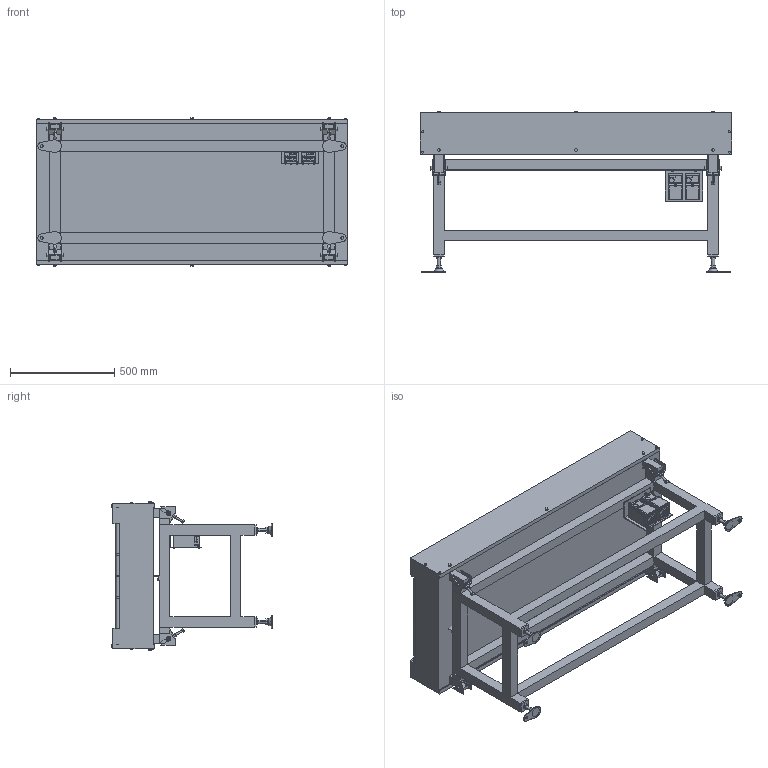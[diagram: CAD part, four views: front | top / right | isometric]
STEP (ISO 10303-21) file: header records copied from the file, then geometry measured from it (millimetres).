
FILE_DESCRIPTION( (''), '2;1');
FILE_NAME ('GA20H-304×2-500-150-L-IVH-18.stp','2024-05-20T09:45:16',(''),(''),'spGate 20.6.2 (****-****-****-****)','','');
FILE_SCHEMA (('AUTOMOTIVE_DESIGN'));
Length unit declared in the file: millimetre
Products named in the file (66): NewModel; TEMP_X_T-prt0; TEMP_X_T-prt1; TEMP_X_T-prt2; TEMP_X_T-prt3; TEMP_X_T-prt4; TEMP_X_T-prt5; TEMP_X_T-prt6; TEMP_X_T-prt7; TEMP_X_T-prt8; TEMP_X_T-prt9; TEMP_X_T-prt10; TEMP_X_T-prt11; TEMP_X_T-prt12; TEMP_X_T-prt13; TEMP_X_T-prt14; TEMP_X_T-prt15; TEMP_X_T-prt16; TEMP_X_T-prt17; TEMP_X_T-prt18; TEMP_X_T-prt19; TEMP_X_T-prt20; TEMP_X_T-prt21; TEMP_X_T-prt22; TEMP_X_T-prt23; TEMP_X_T-prt24; TEMP_X_T-prt25; TEMP_X_T-prt26; TEMP_X_T-prt27; TEMP_X_T-prt28; TEMP_X_T-prt29; TEMP_X_T-prt30; TEMP_X_T-prt31; TEMP_X_T-prt32; TEMP_X_T-prt33; TEMP_X_T-prt34; TEMP_X_T-prt35; TEMP_X_T-prt36; TEMP_X_T-prt37; TEMP_X_T-prt38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
Assembly tree (65 placements, depth 2):
  NewModel
    TEMP_X_T-prt0
    TEMP_X_T-prt1
    TEMP_X_T-prt2
    TEMP_X_T-prt3
    TEMP_X_T-prt4
    TEMP_X_T-prt5
    TEMP_X_T-prt6
    TEMP_X_T-prt7
    TEMP_X_T-prt8
    TEMP_X_T-prt9
    TEMP_X_T-prt10
    TEMP_X_T-prt11
    TEMP_X_T-prt12
    TEMP_X_T-prt13
    TEMP_X_T-prt14
    TEMP_X_T-prt15
    TEMP_X_T-prt16
    TEMP_X_T-prt17
    TEMP_X_T-prt18
    TEMP_X_T-prt19
    TEMP_X_T-prt20
    TEMP_X_T-prt21
    TEMP_X_T-prt22
    TEMP_X_T-prt23
    TEMP_X_T-prt24
    TEMP_X_T-prt25
    TEMP_X_T-prt26
    TEMP_X_T-prt27
    TEMP_X_T-prt28
    TEMP_X_T-prt29
    TEMP_X_T-prt30
    TEMP_X_T-prt31
    TEMP_X_T-prt32
    TEMP_X_T-prt33
    TEMP_X_T-prt34
    TEMP_X_T-prt35
    TEMP_X_T-prt36
    TEMP_X_T-prt37
    TEMP_X_T-prt38
    TEMP_X_T-prt39
    TEMP_X_T-prt40
    TEMP_X_T-prt41
    TEMP_X_T-prt42
    TEMP_X_T-prt43
    TEMP_X_T-prt44
    TEMP_X_T-prt45
    TEMP_X_T-prt46
    TEMP_X_T-prt47
    TEMP_X_T-prt48
    TEMP_X_T-prt49
    TEMP_X_T-prt50
    TEMP_X_T-prt51
    TEMP_X_T-prt52
    TEMP_X_T-prt53
    TEMP_X_T-prt54
    TEMP_X_T-prt55
    TEMP_X_T-prt56
    TEMP_X_T-prt57
    TEMP_X_T-prt58
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Bounding box: 1495 x 768.7 x 714.2 mm (x, y, z)
Volume: 220504547.3 mm3; surface area: 8621101.9 mm2
Topology: 65 solids, 65 shells, 3662 faces, 9259 edges, 6036 vertices
Faces by surface type: plane 2664, cylinder 902, bspline 88, sphere 8
Entity records: 186622 total; most frequent: CARTESIAN_POINT 21857, ORIENTED_EDGE 18502, DIRECTION 17911, COLOUR_RGB 12978, PRESENTATION_STYLE_ASSIGNMENT 12978, STYLED_ITEM 12978, EDGE_CURVE 9251, DRAUGHTING_PRE_DEFINED_CURVE_FONT 9251
